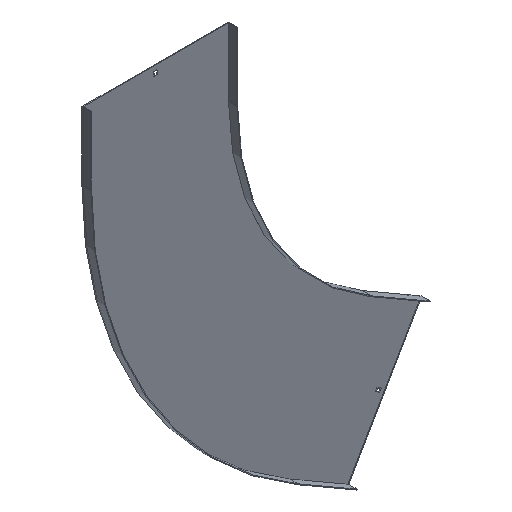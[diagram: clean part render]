
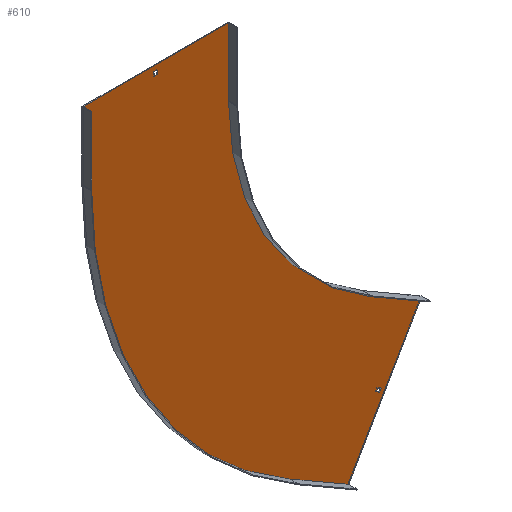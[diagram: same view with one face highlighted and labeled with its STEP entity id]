
A CAD part, isometric view. The second image highlights one B-rep face of the part: STEP entity #610.
In plain terms, the highlighted planar face has unit normal (0, -1, 0).
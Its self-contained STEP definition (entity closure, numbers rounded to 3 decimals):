
#5 = ORIENTED_EDGE ( 'NONE', *, *, #797, .T. ) ;
#15 = CARTESIAN_POINT ( 'NONE',  ( -257.113, -1.5, -721.334 ) ) ;
#21 = ORIENTED_EDGE ( 'NONE', *, *, #218, .F. ) ;
#23 = VECTOR ( 'NONE', #315, 1000. ) ;
#36 = AXIS2_PLACEMENT_3D ( 'NONE', #415, #729, #342 ) ;
#53 = DIRECTION ( 'NONE',  ( 0., 0., -1. ) ) ;
#57 = VERTEX_POINT ( 'NONE', #236 ) ;
#60 = CARTESIAN_POINT ( 'NONE',  ( -590., -1.5, 0. ) ) ;
#68 = CIRCLE ( 'NONE', #777, 590. ) ;
#72 = VERTEX_POINT ( 'NONE', #835 ) ;
#89 = EDGE_CURVE ( 'NONE', #72, #768, #845, .T. ) ;
#94 = VERTEX_POINT ( 'NONE', #101 ) ;
#101 = CARTESIAN_POINT ( 'NONE',  ( -264.908, -1.5, -716.834 ) ) ;
#104 = CARTESIAN_POINT ( 'NONE',  ( -376.625, -1.5, -652.334 ) ) ;
#107 = CARTESIAN_POINT ( 'NONE',  ( -910., -1.5, 0. ) ) ;
#119 = DIRECTION ( 'NONE',  ( 0.866, 0., -0.5 ) ) ;
#125 = EDGE_LOOP ( 'NONE', ( #312, #5, #542, #318 ) ) ;
#126 = LINE ( 'NONE', #590, #360 ) ;
#131 = FACE_BOUND ( 'NONE', #656, .T. ) ;
#135 = VECTOR ( 'NONE', #264, 1000. ) ;
#143 = EDGE_CURVE ( 'NONE', #94, #169, #767, .T. ) ;
#151 = CARTESIAN_POINT ( 'NONE',  ( -295., -1.5, -510.955 ) ) ;
#152 = VECTOR ( 'NONE', #762, 1000. ) ;
#159 = LINE ( 'NONE', #235, #233 ) ;
#161 = DIRECTION ( 'NONE',  ( 0., 0., -1. ) ) ;
#162 = DIRECTION ( 'NONE',  ( -0.866, 0., 0.5 ) ) ;
#169 = VERTEX_POINT ( 'NONE', #15 ) ;
#173 = VERTEX_POINT ( 'NONE', #597 ) ;
#178 = VECTOR ( 'NONE', #119, 1000. ) ;
#195 = VECTOR ( 'NONE', #251, 1000. ) ;
#196 = CARTESIAN_POINT ( 'NONE',  ( 0., -1.5, 0. ) ) ;
#200 = FACE_OUTER_BOUND ( 'NONE', #424, .T. ) ;
#216 = CARTESIAN_POINT ( 'NONE',  ( 0., -1.5, 138. ) ) ;
#218 = EDGE_CURVE ( 'NONE', #779, #572, #843, .T. ) ;
#219 = ORIENTED_EDGE ( 'NONE', *, *, #334, .F. ) ;
#230 = EDGE_CURVE ( 'NONE', #261, #57, #812, .T. ) ;
#233 = VECTOR ( 'NONE', #426, 1000. ) ;
#235 = CARTESIAN_POINT ( 'NONE',  ( 0., -1.5, 129. ) ) ;
#236 = CARTESIAN_POINT ( 'NONE',  ( -165.096, -1.5, -585.955 ) ) ;
#251 = DIRECTION ( 'NONE',  ( 0., 0., 1. ) ) ;
#255 = ORIENTED_EDGE ( 'NONE', *, *, #521, .F. ) ;
#259 = CARTESIAN_POINT ( 'NONE',  ( 111.717, -1.5, -64.5 ) ) ;
#261 = VERTEX_POINT ( 'NONE', #151 ) ;
#264 = DIRECTION ( 'NONE',  ( 0., 0., -1. ) ) ;
#276 = VERTEX_POINT ( 'NONE', #554 ) ;
#280 = VERTEX_POINT ( 'NONE', #806 ) ;
#281 = LINE ( 'NONE', #216, #665 ) ;
#284 = LINE ( 'NONE', #627, #568 ) ;
#301 = CARTESIAN_POINT ( 'NONE',  ( -325.096, -1.5, -863.083 ) ) ;
#308 = VERTEX_POINT ( 'NONE', #571 ) ;
#312 = ORIENTED_EDGE ( 'NONE', *, *, #679, .T. ) ;
#315 = DIRECTION ( 'NONE',  ( -0.5, 0., -0.866 ) ) ;
#318 = ORIENTED_EDGE ( 'NONE', *, *, #89, .T. ) ;
#328 = DIRECTION ( 'NONE',  ( 0., -1., 0. ) ) ;
#334 = EDGE_CURVE ( 'NONE', #444, #173, #581, .T. ) ;
#341 = ORIENTED_EDGE ( 'NONE', *, *, #230, .F. ) ;
#342 = DIRECTION ( 'NONE',  ( 0., 0., -1. ) ) ;
#345 = FACE_BOUND ( 'NONE', #125, .T. ) ;
#347 = VECTOR ( 'NONE', #638, 1000. ) ;
#357 = DIRECTION ( 'NONE',  ( 0.5, 0., 0.866 ) ) ;
#360 = VECTOR ( 'NONE', #833, 1000. ) ;
#365 = EDGE_CURVE ( 'NONE', #308, #779, #637, .T. ) ;
#371 = LINE ( 'NONE', #503, #661 ) ;
#375 = CARTESIAN_POINT ( 'NONE',  ( -753.25, -1.5, 0. ) ) ;
#389 = ORIENTED_EDGE ( 'NONE', *, *, #796, .F. ) ;
#408 = ORIENTED_EDGE ( 'NONE', *, *, #564, .F. ) ;
#415 = CARTESIAN_POINT ( 'NONE',  ( 0., -1.5, 0. ) ) ;
#424 = EDGE_LOOP ( 'NONE', ( #219, #612, #21, #774, #712, #341, #255, #537 ) ) ;
#426 = DIRECTION ( 'NONE',  ( -1., 0., 0. ) ) ;
#427 = EDGE_CURVE ( 'NONE', #850, #72, #159, .T. ) ;
#444 = VERTEX_POINT ( 'NONE', #697 ) ;
#449 = LINE ( 'NONE', #714, #579 ) ;
#461 = CARTESIAN_POINT ( 'NONE',  ( -295., -1.5, -510.955 ) ) ;
#479 = CARTESIAN_POINT ( 'NONE',  ( 0., -1.5, 0. ) ) ;
#484 = DIRECTION ( 'NONE',  ( 1., 0., 0. ) ) ;
#495 = CARTESIAN_POINT ( 'NONE',  ( -753.25, -1.5, 138. ) ) ;
#503 = CARTESIAN_POINT ( 'NONE',  ( 119.512, -1.5, -69. ) ) ;
#510 = CARTESIAN_POINT ( 'NONE',  ( -164.346, -1.5, -584.656 ) ) ;
#515 = VERTEX_POINT ( 'NONE', #60 ) ;
#516 = VECTOR ( 'NONE', #534, 1000. ) ;
#521 = EDGE_CURVE ( 'NONE', #515, #261, #68, .T. ) ;
#534 = DIRECTION ( 'NONE',  ( -0.5, 0., -0.866 ) ) ;
#535 = EDGE_CURVE ( 'NONE', #57, #308, #856, .T. ) ;
#537 = ORIENTED_EDGE ( 'NONE', *, *, #622, .F. ) ;
#542 = ORIENTED_EDGE ( 'NONE', *, *, #427, .T. ) ;
#552 = EDGE_CURVE ( 'NONE', #764, #94, #853, .T. ) ;
#554 = CARTESIAN_POINT ( 'NONE',  ( -253.863, -1.5, -715.704 ) ) ;
#557 = DIRECTION ( 'NONE',  ( 0., 1., 0. ) ) ;
#563 = ORIENTED_EDGE ( 'NONE', *, *, #143, .F. ) ;
#564 = EDGE_CURVE ( 'NONE', #276, #764, #449, .T. ) ;
#568 = VECTOR ( 'NONE', #161, 1000. ) ;
#571 = CARTESIAN_POINT ( 'NONE',  ( -325.096, -1.5, -863.083 ) ) ;
#572 = VERTEX_POINT ( 'NONE', #107 ) ;
#579 = VECTOR ( 'NONE', #709, 1000. ) ;
#581 = LINE ( 'NONE', #823, #152 ) ;
#590 = CARTESIAN_POINT ( 'NONE',  ( -910., -1.5, 0. ) ) ;
#597 = CARTESIAN_POINT ( 'NONE',  ( -590., -1.5, 150. ) ) ;
#599 = DIRECTION ( 'NONE',  ( 0., 0., -1. ) ) ;
#610 = ADVANCED_FACE ( 'NONE', ( #131, #200, #345 ), #808, .T. ) ;
#612 = ORIENTED_EDGE ( 'NONE', *, *, #821, .F. ) ;
#622 = EDGE_CURVE ( 'NONE', #173, #515, #800, .T. ) ;
#626 = ORIENTED_EDGE ( 'NONE', *, *, #552, .F. ) ;
#627 = CARTESIAN_POINT ( 'NONE',  ( -746.75, -1.5, 0. ) ) ;
#633 = CARTESIAN_POINT ( 'NONE',  ( -261.658, -1.5, -711.204 ) ) ;
#637 = LINE ( 'NONE', #301, #691 ) ;
#638 = DIRECTION ( 'NONE',  ( 0.866, 0., -0.5 ) ) ;
#648 = CARTESIAN_POINT ( 'NONE',  ( -746.75, -1.5, 129. ) ) ;
#656 = EDGE_LOOP ( 'NONE', ( #408, #389, #563, #626 ) ) ;
#661 = VECTOR ( 'NONE', #357, 1000. ) ;
#665 = VECTOR ( 'NONE', #484, 1000. ) ;
#679 = EDGE_CURVE ( 'NONE', #768, #280, #281, .T. ) ;
#687 = CARTESIAN_POINT ( 'NONE',  ( -455., -1.5, -788.083 ) ) ;
#691 = VECTOR ( 'NONE', #162, 1000. ) ;
#697 = CARTESIAN_POINT ( 'NONE',  ( -910., -1.5, 150. ) ) ;
#709 = DIRECTION ( 'NONE',  ( -0.866, 0., 0.5 ) ) ;
#712 = ORIENTED_EDGE ( 'NONE', *, *, #535, .F. ) ;
#714 = CARTESIAN_POINT ( 'NONE',  ( -373.375, -1.5, -646.704 ) ) ;
#729 = DIRECTION ( 'NONE',  ( 0., -1., 0. ) ) ;
#762 = DIRECTION ( 'NONE',  ( 1., 0., 0. ) ) ;
#764 = VERTEX_POINT ( 'NONE', #633 ) ;
#767 = LINE ( 'NONE', #104, #347 ) ;
#768 = VERTEX_POINT ( 'NONE', #495 ) ;
#774 = ORIENTED_EDGE ( 'NONE', *, *, #365, .F. ) ;
#777 = AXIS2_PLACEMENT_3D ( 'NONE', #196, #328, #599 ) ;
#779 = VERTEX_POINT ( 'NONE', #687 ) ;
#791 = AXIS2_PLACEMENT_3D ( 'NONE', #479, #557, #53 ) ;
#796 = EDGE_CURVE ( 'NONE', #169, #276, #371, .T. ) ;
#797 = EDGE_CURVE ( 'NONE', #280, #850, #284, .T. ) ;
#800 = LINE ( 'NONE', #862, #135 ) ;
#806 = CARTESIAN_POINT ( 'NONE',  ( -746.75, -1.5, 138. ) ) ;
#808 = PLANE ( 'NONE',  #36 ) ;
#812 = LINE ( 'NONE', #461, #178 ) ;
#821 = EDGE_CURVE ( 'NONE', #572, #444, #126, .T. ) ;
#823 = CARTESIAN_POINT ( 'NONE',  ( -911.5, -1.5, 150. ) ) ;
#833 = DIRECTION ( 'NONE',  ( 0., 0., 1. ) ) ;
#835 = CARTESIAN_POINT ( 'NONE',  ( -753.25, -1.5, 129. ) ) ;
#843 = CIRCLE ( 'NONE', #791, 910. ) ;
#845 = LINE ( 'NONE', #375, #195 ) ;
#850 = VERTEX_POINT ( 'NONE', #648 ) ;
#853 = LINE ( 'NONE', #259, #516 ) ;
#856 = LINE ( 'NONE', #510, #23 ) ;
#862 = CARTESIAN_POINT ( 'NONE',  ( -590., -1.5, 150. ) ) ;
